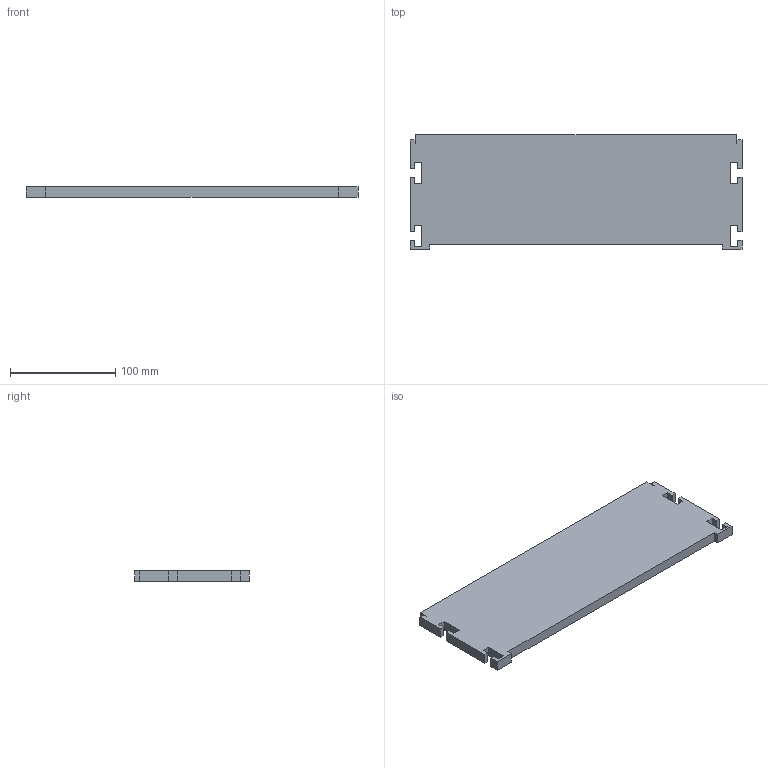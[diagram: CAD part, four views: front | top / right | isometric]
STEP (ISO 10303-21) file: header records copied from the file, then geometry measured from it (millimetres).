
FILE_DESCRIPTION (( 'STEP AP214' ), '1' );
FILE_NAME ('320 baan.STEP', '2017-02-08T12:29:07', ( '' ), ( '' ), 'SwSTEP 2.0', 'SolidWorks 2016', '' );
FILE_SCHEMA (( 'AUTOMOTIVE_DESIGN' ));
Length unit declared in the file: millimetre
Products named in the file (1): 320 baan
Bounding box: 316 x 109 x 10 mm (x, y, z)
Volume: 323907.6 mm3; surface area: 75389.5 mm2
Topology: 1 solids, 1 shells, 54 faces, 156 edges, 104 vertices
Faces by surface type: plane 54
Entity records: 1774 total; most frequent: CARTESIAN_POINT 315, ORIENTED_EDGE 312, DIRECTION 266, EDGE_CURVE 156, VECTOR 156, LINE 156, VERTEX_POINT 104, AXIS2_PLACEMENT_3D 55
